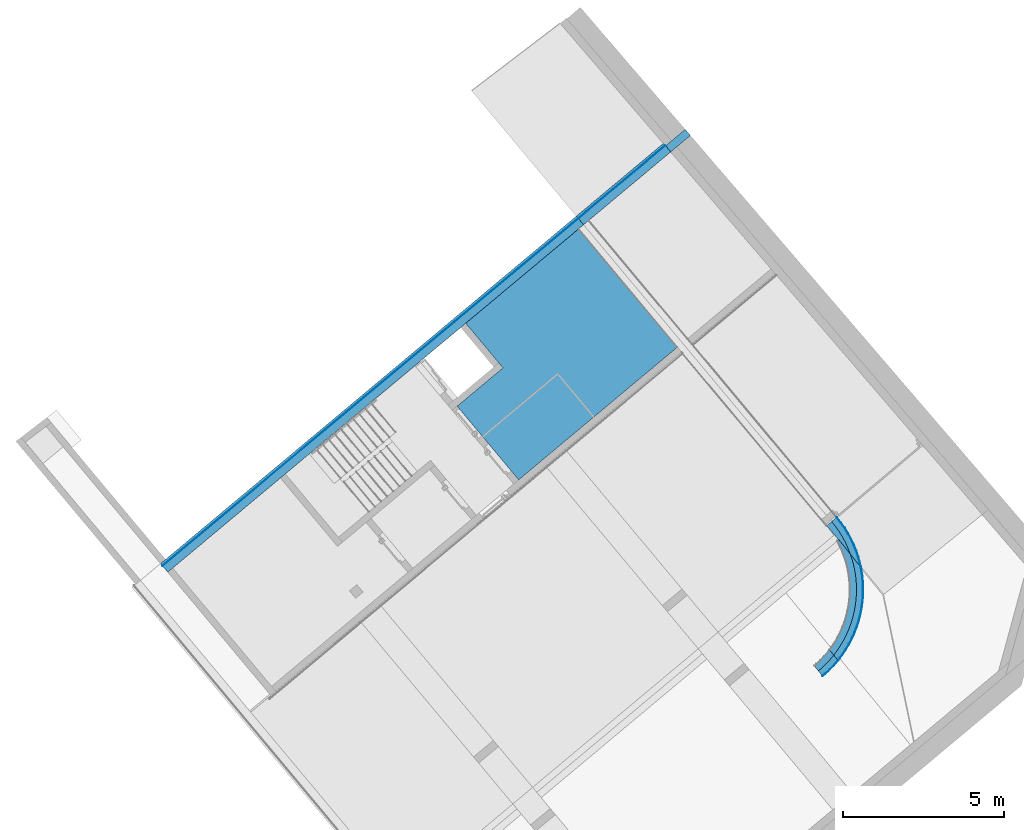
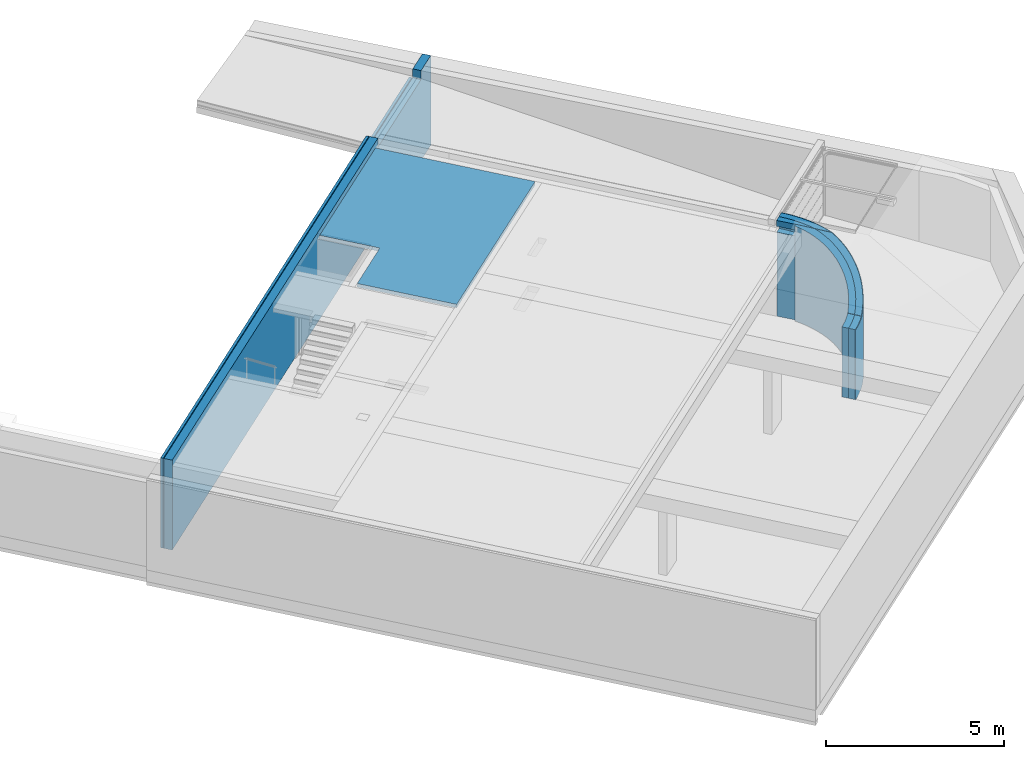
# One storey, part 11 of 14: 7 building element parts, 3 elements without a shape of their own.
"""IFC4 building model written with IfcOpenShell, lengths in metres."""

from ifc_helpers import new_model, entity, si_unit, converted_unit, derived_unit, direction, frame, origin_with_axes, place, context, subcontext, project, spatial, polygons, material, type_object, element, aggregate, save


model = new_model("IFC4")

# Units and contexts
model_context = context("Model", 3, precision=1e-05, world=origin_with_axes(), true_north=direction((0.0, 1.0)))
body_context = subcontext(model_context, "Body", "Model", "MODEL_VIEW")
ifc_project = project(units=[si_unit("LENGTHUNIT", "METRE"), si_unit("AREAUNIT", "SQUARE_METRE"), si_unit("VOLUMEUNIT", "CUBIC_METRE"), converted_unit("PLANEANGLEUNIT", "DEGREE", entity("IfcPlaneAngleMeasure", 0.0174532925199), si_unit("PLANEANGLEUNIT", "RADIAN"), dimensions=[0, 0, 0, 0, 0, 0, 0]), converted_unit("TIMEUNIT", "Year", entity("IfcTimeMeasure", 31556926.0), si_unit("TIMEUNIT", "SECOND"), dimensions=[0, 0, 1, 0, 0, 0, 0]), si_unit("MASSUNIT", "GRAM", prefix="KILO"), si_unit("THERMODYNAMICTEMPERATUREUNIT", "DEGREE_CELSIUS"), si_unit("LUMINOUSINTENSITYUNIT", "LUMEN"), si_unit("ENERGYUNIT", "JOULE", prefix="MEGA"), derived_unit("THERMALCONDUCTANCEUNIT", [(si_unit("POWERUNIT", "WATT"), 1), (si_unit("LENGTHUNIT", "METRE"), -1), (si_unit("THERMODYNAMICTEMPERATUREUNIT", "KELVIN"), -1)]), derived_unit("SPECIFICHEATCAPACITYUNIT", [(si_unit("ENERGYUNIT", "JOULE"), 1), (si_unit("MASSUNIT", "GRAM", prefix="KILO"), -1), (si_unit("THERMODYNAMICTEMPERATUREUNIT", "KELVIN"), -1)]), derived_unit("MASSDENSITYUNIT", [(si_unit("MASSUNIT", "GRAM", prefix="KILO"), 1), (si_unit("VOLUMEUNIT", "CUBIC_METRE"), -1)])], contexts=[model_context])

# Site, building, storey, space
site_placement = place(None, frame((-0.00153261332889, -0.00661245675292, 0.0), z_axis=(0.0, 0.0, 1.0), x_axis=(1.0, 0.0, 0.0)))
site = spatial("IfcSite", under=ifc_project, at=site_placement, Name="Gelände", CompositionType="ELEMENT")
building_placement = place(site_placement, origin_with_axes())
building = spatial("IfcBuilding", under=site, at=building_placement, Name="Gebäude", CompositionType="ELEMENT")
storey_placement = place(building_placement, frame((0.0, 0.0, -3.3), z_axis=(0.0, 0.0, 1.0), x_axis=(1.0, 0.0, 0.0)))
storey = spatial("IfcBuildingStorey", under=building, at=storey_placement, Name="UG1", CompositionType="ELEMENT", Elevation=-3.3)
space_1_placement = place(storey_placement, frame((1.94844643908, 34.4071819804, 0.0), z_axis=(0.0, 0.0, 1.0), x_axis=(0.6411378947, -0.767425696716, 0.0)))
space_1 = spatial("IfcSpace", under=storey, at=space_1_placement, CompositionType="ELEMENT", PredefinedType="NOTDEFINED")

# Wall, building element parts
wall_type_1 = type_object("IfcWallType", Name="AW KG 420", PredefinedType="NOTDEFINED")
wall_1_placement = place(space_1_placement, frame((20.4787029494, -3.28647441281, 0.0), z_axis=(0.0, 0.0, 1.0), x_axis=(0.00228131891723, 0.999997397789, 0.0)))
wall_1 = element("IfcWall", 1, at=wall_1_placement, inside=space_1, type_object=wall_type_1, Name="Wand-002", PredefinedType="NOTDEFINED")
ifc_material_1 = material(Name="Stahlbeton Wand")
building_element_part_1_placement = place(wall_1_placement, origin_with_axes())
building_element_part_1 = element("IfcBuildingElementPart", 2, at=building_element_part_1_placement, material=ifc_material_1, Name="Stahlbeton Wand", PredefinedType="NOTDEFINED", context=body_context, shape_type="Tessellation", body=[
    polygons([(2.65108964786, 1.14446129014, 3.12384897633), (2.54391486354, 1.00547455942, 3.08515618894), (2.53680556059, 0.996255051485, 3.08258953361), (2.53680556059, 0.996255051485, 0.0), (2.65108964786, 1.14446129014, 0.0), (2.75672643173, 1.29895016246, 3.16194691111), (2.85337134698, 1.45921775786, 3.19675908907), (2.94070915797, 1.62474131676, 3.22817196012), (3.01845498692, 1.7949809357, 3.25608306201), (3.07584472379, 1.94238527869, 3.27663704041), (3.08865828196, 2.51712510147, 3.27999999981), (2.41424694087, 0.854814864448, 3.03830285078), (3.02590831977, 2.5169352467, 3.25716165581), (2.99688411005, 2.37369512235, 3.24692227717), (2.9522115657, 2.20374313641, 3.23104795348), (2.89790952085, 2.03661862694, 3.21166242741), (2.83415509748, 1.87286671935, 3.18882893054), (2.76115624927, 1.71302153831, 3.16262194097), (2.67915108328, 1.55760446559, 3.13312694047), (2.58840708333, 1.40712243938, 3.10044013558), (2.48922023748, 1.26206630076, 3.06466814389), (2.38191407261, 1.12290919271, 3.02592764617), (2.26683859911, 0.990105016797, 2.9843450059), (2.14436916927, 0.864086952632, 2.940055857), (2.01490525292, 0.745266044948, 2.89320466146), (1.87886913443, 0.634029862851, 2.84394423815), (1.73670453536, 0.530741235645, 2.79243526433), (1.58887516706, 0.435737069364, 2.73884575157), (1.43586321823, 0.349327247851, 2.68335049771), (1.27816778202, 0.271793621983, 2.62613051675), (1.11630322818, 0.203389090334, 2.56737244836), (0.950797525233, 0.144336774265, 2.50726794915), (0.782190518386, 0.0948292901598, 2.44601306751), (0.777618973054, 0.0937662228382, 2.444351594), (0.775046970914, -0.112168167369, 2.44388187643), (0.833054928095, -0.098678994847, 2.46496417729), (1.01262613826, -0.0459521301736, 2.53020235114), (1.18889437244, 0.0169402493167, 2.5942153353), (1.36128468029, 0.0897930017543, 2.65679433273), (1.52923476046, 0.172368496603, 2.71773522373), (1.69219679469, 0.264397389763, 2.7768392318), (1.84963923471, 0.365579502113, 2.83391357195), (2.001048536, 0.475584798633, 2.88877207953), (2.14593083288, 0.59405446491, 2.94123581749), (2.28381354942, 0.720602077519, 2.99113366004), (2.41424694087, 0.854814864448, 0.0), (2.48922023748, 1.26206630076, 0.0), (2.38191407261, 1.12290919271, 0.0), (2.75672643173, 1.29895016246, 0.0), (2.85337134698, 1.45921775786, 0.0), (2.94070915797, 1.62474131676, 0.0), (3.01845498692, 1.7949809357, 0.0), (3.08635524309, 1.96938132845, 0.0), (3.08635524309, 1.96938132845, 3.27999999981), (3.08373470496, 1.96265053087, 3.27999999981), (3.07584472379, 1.94238527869, 3.27999999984), (3.08208043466, 2.22208208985, 3.27999999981), (3.08865828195, 2.51712510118, 0.0), (3.02590832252, 2.51693525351, 0.0), (2.99688411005, 2.37369512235, 0.0), (2.9522115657, 2.20374313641, 0.0), (2.89790952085, 2.03661862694, 0.0), (2.83415509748, 1.87286671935, 0.0), (2.76115624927, 1.71302153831, 0.0), (2.67915108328, 1.55760446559, 0.0), (2.58840708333, 1.40712243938, 0.0), (2.26683859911, 0.990105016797, 0.0), (2.14436916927, 0.864086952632, 0.0), (2.01490525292, 0.745266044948, 0.0), (1.87886913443, 0.634029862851, 0.0), (1.73670453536, 0.530741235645, 0.0), (1.58887516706, 0.435737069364, 0.0), (1.43586321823, 0.349327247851, 0.0), (1.27816778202, 0.271793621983, 0.0), (1.11630322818, 0.203389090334, 0.0), (0.950797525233, 0.144336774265, 0.0), (0.782190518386, 0.0948292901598, 0.0), (0.611032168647, 0.0550281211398, 0.0), (0.611032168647, 0.0550281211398, 2.4), (0.6821575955, 0.0715676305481, 2.4), (0.6821575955, 0.0715676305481, 2.40965734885), (0.679568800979, -0.134370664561, 2.40918153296), (0.679568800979, -0.134370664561, 2.4), (0.650766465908, -0.14106836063, 2.4), (0.650766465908, -0.14106836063, 0.0), (0.833054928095, -0.098678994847, 0.0), (1.01262613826, -0.0459521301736, 0.0), (1.18889437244, 0.0169402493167, 0.0), (1.36128468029, 0.0897930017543, 0.0), (1.52923476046, 0.172368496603, 0.0), (1.69219679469, 0.264397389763, 0.0), (1.84963923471, 0.365579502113, 0.0), (2.001048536, 0.475584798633, 0.0), (2.14593083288, 0.59405446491, 0.0), (2.28381354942, 0.720602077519, 0.0), (3.14418844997, 2.14737363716, 0.0), (3.14418844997, 2.14737363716, 3.27999999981), (3.19176596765, 2.32837728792, 3.27999999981), (3.22893260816, 2.51180188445, 3.27999999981), (3.25556714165, 2.69704913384, 3.27999999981), (3.27158269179, 2.88351479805, 3.27999999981), (3.27554574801, 3.08782711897, 3.27999999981), (3.07656667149, 3.08678005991, 3.27999999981), (3.0801952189, 2.51773175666, 3.27999999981), (3.08867237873, 2.51775739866, 3.27999999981), (3.08867237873, 2.51775739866, 0.0), (3.08867237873, 2.51775739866, 3.08), (3.08866525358, 2.51743780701, 3.08), (3.08866525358, 2.51743780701, 2.88), (3.08867237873, 2.51775739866, 2.88), (3.08019521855, 2.51773175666, 0.0), (3.08006875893, 2.53756378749, 0.0), (3.22893260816, 2.51180188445, 0.0), (3.19176596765, 2.32837728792, 0.0), (0.437880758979, 0.0250630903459, 0.0), (0.437880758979, 0.0250630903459, 2.4), (0.466355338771, -0.172981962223, 2.4), (0.263301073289, 0.00503193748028, 2.4), (0.0878625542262, -0.005, 2.4), (0.0, -0.005, 2.4), (0.0, -0.205, 2.4), (0.0935760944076, -0.205, 2.4), (0.280423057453, -0.19431570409, 2.4), (0.466355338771, -0.172981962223, 0.0), (3.22980394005, 2.51786213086, 3.08), (3.25556714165, 2.69704913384, 3.08), (3.25556714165, 2.69704913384, 0.0), (3.25556714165, 2.69704913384, 2.88), (3.22980394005, 2.51786213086, 2.88), (3.27158269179, 2.88351479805, 3.08), (3.27554618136, 3.08782711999, 3.08), (3.07656667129, 3.08678005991, 3.08), (3.08019521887, 2.51773175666, 3.08), (3.27536057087, 3.07830175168, 2.88), (3.07662371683, 3.07783387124, 2.88), (3.08019521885, 2.51773175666, 2.88), (3.27158269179, 2.88351479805, 2.88), (3.07662371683, 3.07783387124, 0.0), (3.07779213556, 2.89459614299, 0.0), (3.07892255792, 2.71731721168, 0.0), (0.263301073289, 0.00503193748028, 0.0), (0.0878625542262, -0.005, 0.0), (0.0, -0.005, 0.0), (0.0, -0.205, 0.0), (0.0935760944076, -0.205, 0.0), (0.280423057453, -0.19431570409, 0.0), (3.27158269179, 2.88351479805, 0.0), (3.27536057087, 3.07830175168, 0.0)], [[[1, 2, 3, 4, 5]], [[2, 1, 6, 7, 8, 9, 10, 11]], [[12, 3, 2, 11, 13, 14, 15, 16, 17, 18, 19, 20, 21, 22, 23, 24, 25, 26, 27, 28, 29, 30, 31, 32, 33, 34, 35, 36, 37, 38, 39, 40, 41, 42, 43, 44, 45]], [[3, 12, 46, 4]], [[47, 5, 4, 48]], [[6, 1, 5, 49]], [[7, 6, 49, 50]], [[8, 7, 50, 51]], [[9, 8, 51, 52]], [[10, 9, 52, 53, 54, 55, 56]], [[10, 56, 57, 11]], [[13, 11, 58, 59]], [[14, 13, 59, 60]], [[15, 14, 60, 61]], [[16, 15, 61, 62]], [[17, 16, 62, 63]], [[18, 17, 63, 64]], [[19, 18, 64, 65]], [[20, 19, 65, 66]], [[21, 20, 66, 47]], [[22, 21, 47, 48]], [[23, 22, 48, 67]], [[24, 23, 67, 68]], [[25, 24, 68, 69]], [[26, 25, 69, 70]], [[27, 26, 70, 71]], [[28, 27, 71, 72]], [[29, 28, 72, 73]], [[30, 29, 73, 74]], [[31, 30, 74, 75]], [[32, 31, 75, 76]], [[33, 32, 76, 77]], [[34, 33, 77, 78, 79, 80, 81]], [[35, 34, 81, 82]], [[36, 35, 82, 83, 84, 85, 86]], [[37, 36, 86, 87]], [[38, 37, 87, 88]], [[39, 38, 88, 89]], [[40, 39, 89, 90]], [[41, 40, 90, 91]], [[42, 41, 91, 92]], [[43, 42, 92, 93]], [[44, 43, 93, 94]], [[45, 44, 94, 95]], [[12, 45, 95, 46]], [[48, 4, 46, 67]], [[66, 49, 5, 47]], [[65, 50, 49, 66]], [[64, 51, 50, 65]], [[63, 52, 51, 64]], [[62, 53, 52, 63]], [[53, 96, 97, 54]], [[57, 55, 54, 97, 98, 99, 100, 101, 102, 103, 104, 105, 11]], [[56, 55, 57]], [[106, 58, 11, 105, 107, 108, 109, 110]], [[58, 106, 111, 112, 113, 114, 60, 59]], [[60, 114, 96, 61]], [[61, 96, 53, 62]], [[67, 46, 95, 68]], [[68, 95, 94, 69]], [[69, 94, 93, 70]], [[70, 93, 92, 71]], [[71, 92, 91, 72]], [[72, 91, 90, 73]], [[73, 90, 89, 74]], [[74, 89, 88, 75]], [[75, 88, 87, 76]], [[76, 87, 86, 77]], [[77, 86, 85, 78]], [[115, 116, 79, 78]], [[117, 84, 83, 80, 79, 116, 118, 119, 120, 121, 122, 123]], [[80, 83, 82, 81]], [[85, 84, 117, 124]], [[96, 114, 98, 97]], [[114, 113, 99, 98]], [[125, 126, 100, 99, 113, 127, 128, 129]], [[126, 130, 101, 100]], [[130, 131, 102, 101]], [[131, 132, 103, 102]], [[132, 133, 104, 103]], [[133, 107, 105, 104]], [[108, 107, 133, 132, 131, 130, 126, 125]], [[108, 125, 129, 109]], [[134, 135, 136, 110, 109, 129, 128, 137]], [[106, 110, 136, 111]], [[138, 139, 140, 112, 111, 136, 135]], [[127, 113, 112, 140]], [[78, 85, 124, 115]], [[141, 118, 116, 115]], [[142, 119, 118, 141]], [[143, 120, 119, 142]], [[144, 121, 120, 143]], [[145, 122, 121, 144]], [[146, 123, 122, 145]], [[124, 117, 123, 146]], [[147, 137, 128, 127]], [[138, 135, 134, 148]], [[148, 134, 137, 147]], [[147, 139, 138, 148]], [[147, 127, 140, 139]], [[115, 124, 146, 141]], [[141, 146, 145, 142]], [[142, 145, 144, 143]]], closed=True),
])
ifc_material_2 = material(Name="XPS KG")
building_element_part_2_placement = place(wall_1_placement, origin_with_axes())
building_element_part_2 = element("IfcBuildingElementPart", 3, at=building_element_part_2_placement, material=ifc_material_2, Name="XPS KG", PredefinedType="NOTDEFINED", context=body_context, shape_type="Tessellation", body=[
    polygons([(0.0, -0.205, 2.4), (0.0, -0.205, 0.0), (0.0, -0.405, 0.0), (0.0, -0.405, 2.4), (0.0935760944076, -0.205, 2.4), (0.0935760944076, -0.205, 0.0), (0.099289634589, -0.405, 0.0), (0.099289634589, -0.405, 2.4), (0.297545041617, -0.393663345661, 2.4), (0.494829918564, -0.371027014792, 2.4), (0.676990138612, -0.339502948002, 2.4), (0.679568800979, -0.134370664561, 2.4), (0.650766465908, -0.14106836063, 2.4), (0.466355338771, -0.172981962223, 2.4), (0.280423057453, -0.19431570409, 2.4), (0.280423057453, -0.19431570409, 0.0), (0.297545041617, -0.393663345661, 0.0), (0.494829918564, -0.371027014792, 0.0), (0.690500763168, -0.3371648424, 0.0), (0.690500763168, -0.3371648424, 2.41361966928), (0.676990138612, -0.339502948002, 2.40870757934), (0.679568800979, -0.134370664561, 2.40918153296), (0.650766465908, -0.14106836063, 0.0), (0.775046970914, -0.112168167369, 2.44388186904), (0.833054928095, -0.098678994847, 2.46496417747), (0.833054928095, -0.098678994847, 0.0), (0.466355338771, -0.172981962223, 0.0), (0.883919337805, -0.292187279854, 0.0), (0.883919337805, -0.292187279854, 2.48391528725), (0.772474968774, -0.318102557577, 2.4434121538), (1.07445475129, -0.236241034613, 2.55313675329), (1.2614855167, -0.1695085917, 2.62105822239), (1.44440157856, -0.0922076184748, 2.68745814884), (1.62260630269, -0.004590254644, 2.75211994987), (1.79551842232, 0.0930577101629, 2.81483271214), (1.96257393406, 0.200417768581, 2.87539187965), (2.12322793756, 0.317139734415, 2.93359992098), (2.27695641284, 0.442842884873, 2.98926697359), (2.37289294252, 0.530892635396, 3.02398507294), (2.54391486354, 1.00547455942, 3.08515618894), (2.53680556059, 0.996255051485, 3.08258953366), (2.41424694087, 0.854814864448, 3.03830285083), (2.28381354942, 0.720602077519, 2.99113366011), (2.14593083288, 0.59405446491, 2.94123581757), (2.001048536, 0.475584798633, 2.88877207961), (1.84963923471, 0.365579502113, 2.83391357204), (1.69219679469, 0.264397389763, 2.77683923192), (1.52923476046, 0.172368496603, 2.71773522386), (1.36128468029, 0.0897930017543, 2.65679433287), (1.18889437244, 0.0169402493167, 2.59421533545), (1.01262613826, -0.0459521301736, 2.53020235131), (1.01262613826, -0.0459521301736, 0.0), (1.07445475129, -0.236241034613, 0.0), (1.2614855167, -0.1695085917, 0.0), (1.44440157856, -0.0922076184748, 0.0), (1.62260630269, -0.004590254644, 0.0), (1.79551842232, 0.0930577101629, 0.0), (1.96257393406, 0.200417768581, 0.0), (2.12322793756, 0.317139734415, 0.0), (2.27695641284, 0.442842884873, 0.0), (2.42325792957, 0.577117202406, 0.0), (2.42325792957, 0.577117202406, 3.04221129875), (2.65108964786, 1.14446129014, 3.12384897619), (2.56165528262, 0.719524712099, 3.09226010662), (2.69169704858, 0.869600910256, 3.13925046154), (2.81295905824, 1.02685627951, 3.18302909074), (2.92504578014, 1.19077788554, 3.22345319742), (3.02759161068, 1.36083105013, 3.26039092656), (3.06443602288, 1.43065897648, 3.27364279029), (3.07584472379, 1.94238527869, 3.27663704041), (3.01845498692, 1.7949809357, 3.25608306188), (2.94070915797, 1.62474131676, 3.22817195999), (2.85337134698, 1.45921775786, 3.19675908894), (2.75672643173, 1.29895016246, 3.16194691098), (2.65108964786, 1.14446129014, 0.0), (2.53680556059, 0.996255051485, 0.0), (2.41424694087, 0.854814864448, 0.0), (2.28381354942, 0.720602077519, 0.0), (2.14593083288, 0.59405446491, 0.0), (2.001048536, 0.475584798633, 0.0), (1.84963923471, 0.365579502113, 0.0), (1.69219679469, 0.264397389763, 0.0), (1.52923476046, 0.172368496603, 0.0), (1.36128468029, 0.0897930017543, 0.0), (1.18889437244, 0.0169402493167, 0.0), (2.56165528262, 0.719524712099, 0.0), (2.69169704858, 0.869600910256, 0.0), (2.81295905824, 1.02685627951, 0.0), (2.92504578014, 1.19077788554, 0.0), (3.02759161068, 1.36083105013, 0.0), (3.12026206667, 1.5364610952, 0.0), (3.12026206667, 1.5364610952, 3.27999999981), (3.08211629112, 1.46416681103, 3.27999999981), (3.06443602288, 1.43065897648, 3.27999999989), (3.07584472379, 1.94238527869, 3.27999999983), (3.01845498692, 1.7949809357, 0.0), (3.08373470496, 1.96265053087, 3.27999999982), (3.08635524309, 1.96938132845, 3.27999999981), (3.08635524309, 1.96938132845, 0.0), (2.94070915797, 1.62474131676, 0.0), (2.85337134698, 1.45921775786, 0.0), (2.75672643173, 1.29895016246, 0.0), (3.20275487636, 1.71709515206, 0.0), (3.20275487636, 1.71709515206, 3.27999999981), (3.27554547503, 3.08782734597, 3.27999999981), (3.27158269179, 2.88351479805, 3.27999999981), (3.25556714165, 2.69704913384, 3.27999999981), (3.22893260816, 2.51180188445, 3.27999999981), (3.19176596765, 2.32837728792, 3.27999999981), (3.14418844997, 2.14737363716, 3.27999999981), (3.08448549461, 1.8449076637, 3.27999999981), (3.27480096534, 1.90214402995, 3.27999999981), (3.33616533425, 2.09100413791, 3.27999999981), (3.38664782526, 2.2830594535, 3.27999999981), (3.42608377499, 2.47768353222, 3.27999999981), (3.45434455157, 2.67424155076, 3.27999999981), (3.47133797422, 2.87209237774, 3.27999999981), (3.47554286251, 3.08887998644, 3.27999999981), (3.14418844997, 2.14737363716, 0.0), (3.27480096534, 1.90214402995, 0.0), (3.27536057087, 3.07830175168, 0.0), (3.27158269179, 2.88351479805, 0.0), (3.27554618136, 3.08782711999, 3.08), (3.27536057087, 3.07830175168, 3.08), (3.25556714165, 2.69704913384, 0.0), (3.22893260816, 2.51180188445, 0.0), (3.19176596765, 2.32837728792, 0.0), (3.33616533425, 2.09100413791, 0.0), (3.38664782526, 2.2830594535, 0.0), (3.42608377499, 2.47768353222, 0.0), (3.45434455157, 2.67424155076, 0.0), (3.47133797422, 2.87209237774, 0.0), (3.47534652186, 3.07877257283, 0.0), (3.47534652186, 3.07877257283, 3.08), (3.47554425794, 3.08887953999, 3.08), (3.27556860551, 3.07830224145, 0.0), (3.27556860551, 3.07830224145, 3.08)], [[[1, 2, 3, 4]], [[2, 1, 5, 6]], [[3, 2, 6, 7]], [[3, 7, 8, 4]], [[5, 1, 4, 8, 9, 10, 11, 12, 13, 14, 15]], [[6, 5, 15, 16]], [[17, 7, 6, 16]], [[7, 17, 9, 8]], [[9, 17, 18, 10]], [[18, 19, 20, 21, 11, 10]], [[12, 11, 21, 22]], [[23, 13, 12, 22, 24, 25, 26]], [[23, 27, 14, 13]], [[27, 16, 15, 14]], [[16, 27, 18, 17]], [[27, 23, 19, 18]], [[20, 19, 28, 29, 30]], [[22, 21, 20, 30, 24]], [[25, 24, 30, 29, 31, 32, 33, 34, 35, 36, 37, 38, 39, 40, 41, 42, 43, 44, 45, 46, 47, 48, 49, 50, 51]], [[26, 25, 51, 52]], [[19, 23, 26, 28]], [[28, 53, 31, 29]], [[31, 53, 54, 32]], [[54, 55, 33, 32]], [[55, 56, 34, 33]], [[56, 57, 35, 34]], [[35, 57, 58, 36]], [[58, 59, 37, 36]], [[59, 60, 38, 37]], [[60, 61, 62, 39, 38]], [[63, 40, 39, 62, 64, 65, 66, 67, 68, 69, 70, 71, 72, 73, 74]], [[75, 76, 41, 40, 63]], [[76, 77, 42, 41]], [[77, 78, 43, 42]], [[78, 79, 44, 43]], [[79, 80, 45, 44]], [[81, 46, 45, 80]], [[81, 82, 47, 46]], [[82, 83, 48, 47]], [[83, 84, 49, 48]], [[84, 85, 50, 49]], [[52, 51, 50, 85]], [[26, 52, 53, 28]], [[53, 52, 85, 54]], [[54, 85, 84, 55]], [[84, 83, 56, 55]], [[83, 82, 57, 56]], [[82, 81, 58, 57]], [[81, 80, 59, 58]], [[80, 79, 60, 59]], [[79, 78, 61, 60]], [[61, 86, 64, 62]], [[64, 86, 87, 65]], [[87, 88, 66, 65]], [[88, 89, 67, 66]], [[89, 90, 68, 67]], [[68, 90, 91, 92, 93, 94, 69]], [[95, 70, 69, 94]], [[96, 71, 70, 95, 97, 98, 99]], [[96, 100, 72, 71]], [[100, 101, 73, 72]], [[101, 102, 74, 73]], [[75, 63, 74, 102]], [[76, 75, 88, 87]], [[77, 76, 87, 86]], [[78, 77, 86, 61]], [[75, 102, 89, 88]], [[102, 101, 90, 89]], [[101, 100, 91, 90]], [[91, 103, 104, 92]], [[105, 106, 107, 108, 109, 110, 98, 97, 111, 93, 92, 104, 112, 113, 114, 115, 116, 117, 118]], [[97, 95, 94, 93, 111]], [[119, 99, 98, 110]], [[96, 99, 120, 103]], [[100, 96, 103, 91]], [[103, 120, 112, 104]], [[121, 122, 106, 105, 123, 124]], [[106, 122, 125, 107]], [[125, 126, 108, 107]], [[126, 127, 109, 108]], [[127, 119, 110, 109]], [[120, 128, 113, 112]], [[128, 129, 114, 113]], [[129, 130, 115, 114]], [[130, 131, 116, 115]], [[131, 132, 117, 116]], [[133, 134, 135, 118, 117, 132]], [[135, 123, 105, 118]], [[99, 119, 128, 120]], [[121, 136, 133, 132, 122]], [[137, 124, 123, 135, 134]], [[136, 121, 124, 137, 134, 133]], [[125, 122, 132, 131]], [[126, 125, 131, 130]], [[127, 126, 130, 129]], [[119, 127, 129, 128]]], closed=True),
])
ifc_material_3 = material(Name="Kalkzementputz KG")
building_element_part_3_placement = place(wall_1_placement, origin_with_axes())
building_element_part_3 = element("IfcBuildingElementPart", 4, at=building_element_part_3_placement, material=ifc_material_3, Name="Kalkzementputz KG", PredefinedType="NOTDEFINED", context=body_context, shape_type="Tessellation", body=[
    polygons([(2.82509926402, 1.01803590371, 3.18746759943), (2.70331391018, 0.860101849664, 3.14350002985), (2.70331391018, 0.860101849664, 0.0), (2.82509926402, 1.01803590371, 0.0), (2.57271090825, 0.709377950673, 3.09630687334), (2.93766973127, 1.18266496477, 3.228066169), (3.04065813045, 1.35345204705, 3.26516331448), (3.0636877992, 1.39709812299, 3.27344641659), (3.06443602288, 1.43065897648, 3.27364279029), (3.02759161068, 1.36083105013, 3.26039092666), (2.92504578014, 1.19077788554, 3.22345319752), (2.81295905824, 1.02685627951, 3.18302909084), (2.69169704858, 0.869600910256, 3.13925046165), (2.56165528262, 0.719524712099, 3.09226010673), (2.42325792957, 0.577117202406, 3.04221129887), (2.37289294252, 0.530892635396, 3.02398507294), (2.3619301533, 0.500471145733, 3.02006390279), (2.43371625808, 0.566355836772, 3.04604206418), (2.57271090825, 0.709377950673, 0.0), (2.81295905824, 1.02685627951, 0.0), (2.69169704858, 0.869600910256, 0.0), (2.93766973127, 1.18266496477, 0.0), (3.04065813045, 1.35345204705, 0.0), (3.13372853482, 1.52984007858, 0.0), (3.13372853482, 1.52984007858, 3.27999999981), (3.08190876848, 1.4316404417, 3.27999999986), (3.0636877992, 1.39709812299, 3.27999999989), (3.06443602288, 1.43065897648, 3.27999999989), (3.08211101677, 1.4641668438, 3.27999999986), (3.12026206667, 1.5364610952, 3.27999999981), (3.12026206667, 1.5364610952, 0.0), (3.02759161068, 1.36083105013, 0.0), (2.92504578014, 1.19077788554, 0.0), (2.56165528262, 0.719524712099, 0.0), (2.42325792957, 0.577117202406, 0.0), (2.27695641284, 0.442842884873, 0.0), (2.27695641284, 0.442842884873, 2.98926697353), (2.28678333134, 0.43150201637, 2.99286931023), (2.12322793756, 0.317139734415, 2.9335999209), (1.96257393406, 0.200417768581, 2.87539187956), (1.79551842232, 0.0930577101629, 2.81483271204), (1.62260630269, -0.004590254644, 2.75211994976), (1.44440157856, -0.0922076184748, 2.68745814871), (1.2614855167, -0.1695085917, 2.62105822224), (1.07445475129, -0.236241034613, 2.55313675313), (0.883919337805, -0.292187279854, 2.48391528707), (0.772474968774, -0.318102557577, 2.44341215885), (0.772282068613, -0.333547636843, 2.44337693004), (0.887734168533, -0.306700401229, 2.48533662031), (1.07909189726, -0.250512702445, 2.55485683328), (1.26692985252, -0.183492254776, 2.62307143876), (1.45063534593, -0.105857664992, 2.6897579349), (1.62960916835, -0.0178621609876, 2.75469880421), (1.80326754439, 0.0802072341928, 2.81768222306), (1.97104403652, 0.188030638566, 2.87850275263), (2.13239139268, 0.305256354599, 2.936962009), (2.28678333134, 0.43150201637, 0.0), (2.43371625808, 0.566355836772, 0.0), (3.21657736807, 1.71125371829, 0.0), (3.21657736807, 1.71125371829, 3.27999999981), (3.28893439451, 1.89710123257, 3.27999999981), (3.35056360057, 2.08677642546, 3.27999999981), (3.40126396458, 2.27966061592, 3.27999999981), (3.44087011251, 2.4751246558, 3.27999999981), (3.46925285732, 2.67253098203, 3.27999999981), (3.4863196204, 2.87123569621, 3.27999999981), (3.49054233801, 3.08895846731, 3.27999999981), (3.47554340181, 3.08887953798, 3.27999999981), (3.47133797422, 2.87209237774, 3.27999999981), (3.45434455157, 2.67424155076, 3.27999999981), (3.42608377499, 2.47768353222, 3.27999999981), (3.38664782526, 2.2830594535, 3.27999999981), (3.33616533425, 2.09100413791, 3.27999999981), (3.27480096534, 1.90214402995, 3.27999999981), (3.20275487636, 1.71709515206, 3.27999999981), (3.20275487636, 1.71709515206, 0.0), (2.12322793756, 0.317139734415, 0.0), (1.96257393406, 0.200417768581, 0.0), (1.79551842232, 0.0930577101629, 0.0), (1.62260630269, -0.004590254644, 0.0), (1.44440157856, -0.0922076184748, 0.0), (1.2614855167, -0.1695085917, 0.0), (1.07445475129, -0.236241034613, 0.0), (0.883919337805, -0.292187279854, 0.0), (0.690500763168, -0.3371648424, 0.0), (0.690500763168, -0.3371648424, 2.41361980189), (0.676990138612, -0.339502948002, 2.40870757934), (0.676798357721, -0.354759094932, 2.40867233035), (0.693480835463, -0.351872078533, 2.41473774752), (0.693480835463, -0.351872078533, 0.0), (0.887734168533, -0.306700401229, 0.0), (1.07909189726, -0.250512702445, 0.0), (1.26692985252, -0.183492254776, 0.0), (1.45063534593, -0.105857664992, 0.0), (1.62960916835, -0.0178621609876, 0.0), (1.80326754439, 0.0802072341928, 0.0), (1.97104403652, 0.188030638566, 0.0), (2.13239139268, 0.305256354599, 0.0), (3.28893439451, 1.89710123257, 0.0), (3.35056360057, 2.08677642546, 0.0), (3.40126396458, 2.27966061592, 0.0), (3.44087011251, 2.4751246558, 0.0), (3.46925285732, 2.67253098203, 0.0), (3.4863196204, 2.87123569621, 0.0), (3.49034546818, 3.07880788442, 3.08), (3.49054233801, 3.08895846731, 3.08), (3.49034546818, 3.07880788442, 0.0), (3.47554425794, 3.08887953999, 3.08), (3.47534652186, 3.07877257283, 0.0), (3.47133797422, 2.87209237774, 0.0), (3.47534652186, 3.07877257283, 3.08), (3.45434455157, 2.67424155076, 0.0), (3.42608377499, 2.47768353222, 0.0), (3.38664782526, 2.2830594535, 0.0), (3.33616533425, 2.09100413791, 0.0), (3.27480096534, 1.90214402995, 0.0), (0.676990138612, -0.339502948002, 2.4), (0.494829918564, -0.371027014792, 0.0), (0.494829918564, -0.371027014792, 2.4), (0.676798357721, -0.354759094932, 2.4), (0.496965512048, -0.385880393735, 2.4), (0.496965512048, -0.385880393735, 0.0), (0.297545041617, -0.393663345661, 0.0), (0.297545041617, -0.393663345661, 2.4), (0.298829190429, -0.408614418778, 2.4), (0.099289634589, -0.405, 2.4), (0.0, -0.405, 2.4), (0.0, -0.42, 2.4), (0.0997181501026, -0.42, 2.4), (0.298829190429, -0.408614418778, 0.0), (0.099289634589, -0.405, 0.0), (0.0, -0.405, 0.0), (0.0, -0.42, 0.0), (0.0997181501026, -0.42, 0.0)], [[[1, 2, 3, 4]], [[5, 2, 1, 6, 7, 8, 9, 10, 11, 12, 13, 14, 15, 16, 17, 18]], [[2, 5, 19, 3]], [[20, 4, 3, 21]], [[6, 1, 4, 22]], [[7, 6, 22, 23]], [[8, 7, 23, 24, 25, 26, 27]], [[8, 27, 28, 9]], [[28, 29, 30, 31, 32, 10, 9]], [[11, 10, 32, 33]], [[12, 11, 33, 20]], [[13, 12, 20, 21]], [[14, 13, 21, 34]], [[15, 14, 34, 35]], [[16, 15, 35, 36, 37]], [[38, 17, 16, 37, 39, 40, 41, 42, 43, 44, 45, 46, 47, 48, 49, 50, 51, 52, 53, 54, 55, 56]], [[17, 38, 57, 58, 18]], [[5, 18, 58, 19]], [[21, 3, 19, 34]], [[33, 22, 4, 20]], [[32, 23, 22, 33]], [[31, 24, 23, 32]], [[24, 59, 60, 25]], [[29, 26, 25, 60, 61, 62, 63, 64, 65, 66, 67, 68, 69, 70, 71, 72, 73, 74, 75, 30]], [[27, 26, 29, 28]], [[76, 31, 30, 75]], [[34, 19, 58, 35]], [[35, 58, 57, 36]], [[39, 37, 36, 77]], [[40, 39, 77, 78]], [[41, 40, 78, 79]], [[42, 41, 79, 80]], [[43, 42, 80, 81]], [[44, 43, 81, 82]], [[45, 44, 82, 83]], [[46, 45, 83, 84]], [[47, 46, 84, 85, 86]], [[48, 47, 86, 87, 88, 89]], [[49, 48, 89, 90, 91]], [[50, 49, 91, 92]], [[51, 50, 92, 93]], [[52, 51, 93, 94]], [[53, 52, 94, 95]], [[54, 53, 95, 96]], [[55, 54, 96, 97]], [[56, 55, 97, 98]], [[38, 56, 98, 57]], [[76, 59, 24, 31]], [[59, 99, 61, 60]], [[99, 100, 62, 61]], [[100, 101, 63, 62]], [[101, 102, 64, 63]], [[102, 103, 65, 64]], [[103, 104, 66, 65]], [[105, 106, 67, 66, 104, 107]], [[106, 108, 68, 67]], [[109, 110, 69, 68, 108, 111]], [[110, 112, 70, 69]], [[112, 113, 71, 70]], [[113, 114, 72, 71]], [[114, 115, 73, 72]], [[115, 116, 74, 73]], [[116, 76, 75, 74]], [[36, 57, 98, 77]], [[77, 98, 97, 78]], [[78, 97, 96, 79]], [[79, 96, 95, 80]], [[80, 95, 94, 81]], [[81, 94, 93, 82]], [[82, 93, 92, 83]], [[83, 92, 91, 84]], [[84, 91, 90, 85]], [[117, 87, 86, 85, 118, 119]], [[117, 120, 88, 87]], [[88, 120, 121, 122, 90, 89]], [[116, 99, 59, 76]], [[115, 100, 99, 116]], [[114, 101, 100, 115]], [[113, 102, 101, 114]], [[112, 103, 102, 113]], [[110, 104, 103, 112]], [[108, 106, 105, 111]], [[109, 107, 104, 110]], [[111, 105, 107, 109]], [[85, 90, 122, 118]], [[123, 124, 119, 118]], [[125, 121, 120, 117, 119, 124, 126, 127, 128, 129]], [[122, 121, 125, 130]], [[118, 122, 130, 123]], [[131, 126, 124, 123]], [[132, 127, 126, 131]], [[133, 128, 127, 132]], [[134, 129, 128, 133]], [[130, 125, 129, 134]], [[123, 130, 134, 131]], [[131, 134, 133, 132]]], closed=True),
])
aggregate(wall_1, [building_element_part_1, building_element_part_2, building_element_part_3])

# Space
space_2_placement = place(storey_placement, frame((-1.16790631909, 24.7563892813, 0.0), z_axis=(0.0, 0.0, 1.0), x_axis=(0.641170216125, -0.767398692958, 0.0)))
space_2 = spatial("IfcSpace", under=storey, at=space_2_placement, Name="Beschichtung", CompositionType="ELEMENT", PredefinedType="NOTDEFINED")

# Wall, building element parts
wall_type_2 = type_object("IfcWallType", Name="Keller-AW 350", PredefinedType="NOTDEFINED")
wall_2_placement = place(space_2_placement, frame((-0.35007199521, 12.3343635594, 0.0), z_axis=(0.0, 0.0, 1.0), x_axis=(5.06265902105e-05, -0.999999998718, 0.0)))
wall_2 = element("IfcWall", 5, at=wall_2_placement, inside=space_2, type_object=wall_type_2, Name="Wand-002", PredefinedType="NOTDEFINED")
ifc_material_4 = material(Name="Stahlbeton Decke Garage")
building_element_part_4_placement = place(wall_2_placement, origin_with_axes())
building_element_part_4 = element("IfcBuildingElementPart", 6, at=building_element_part_4_placement, material=ifc_material_4, Name="Stahlbeton Decke Garage", PredefinedType="NOTDEFINED", context=body_context, shape_type="Tessellation", body=[
    polygons([(0.240018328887, 0.1, 3.08), (0.240004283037, 0.35, 3.08), (-0.554879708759, 0.35, 3.08), (-0.551431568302, 0.1, 3.08), (0.240004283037, 0.35, 2.77313259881), (0.240018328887, 0.1, 2.78563117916), (3.75995630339, 0.35, 2.77051147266), (3.75995630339, 0.35, 3.08), (20.5549542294, 0.35, 3.08), (20.5549542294, 0.35, 0.0), (-0.554879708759, 0.35, 0.0), (-0.551431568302, 0.1, 0.0), (20.5549543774, 0.1, 0.0), (20.5549543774, 0.1, 3.08), (3.75997034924, 0.1, 3.08), (3.75997034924, 0.1, 2.78301005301)], [[[1, 2, 3, 4]], [[5, 2, 1, 6]], [[7, 8, 9, 10, 11, 3, 2, 5]], [[3, 11, 12, 4]], [[6, 1, 4, 12, 13, 14, 15, 16]], [[7, 5, 6, 16]], [[15, 8, 7, 16]], [[8, 15, 14, 9]], [[14, 13, 10, 9]], [[11, 10, 13, 12]]], closed=True),
])
ifc_material_5 = material(Name="Sperrschicht")
building_element_part_5_placement = place(wall_2_placement, origin_with_axes())
building_element_part_5 = element("IfcBuildingElementPart", 7, at=building_element_part_5_placement, material=ifc_material_5, Name="Sperrschicht", PredefinedType="NOTDEFINED", context=body_context, shape_type="Tessellation", body=[
    polygons([(0.248920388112, 0.08, 2.78662443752), (0.248644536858, 0.1, 2.78562475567), (0.248644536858, 0.1, 0.0), (0.248920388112, 0.08, 0.0), (3.75997034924, 0.1, 2.78301005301), (3.75997147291, 0.08, 2.78400993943), (3.75997034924, 0.1, 3.08), (20.5549543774, 0.1, 3.08), (20.5549543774, 0.1, 0.0), (20.5549543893, 0.08, 0.0), (20.5549543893, 0.08, 3.08), (3.75997147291, 0.08, 3.08)], [[[1, 2, 3, 4]], [[5, 2, 1, 6]], [[5, 7, 8, 9, 3, 2]], [[3, 9, 10, 4]], [[6, 1, 4, 10, 11, 12]], [[12, 7, 5, 6]], [[7, 12, 11, 8]], [[8, 11, 10, 9]]], closed=True),
])
building_element_part_6_placement = place(wall_2_placement, origin_with_axes())
building_element_part_6 = element("IfcBuildingElementPart", 8, at=building_element_part_6_placement, material=ifc_material_2, Name="XPS KG", PredefinedType="NOTDEFINED", context=body_context, shape_type="Tessellation", body=[
    polygons([(0.250023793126, 0.0, 2.79062316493), (0.248920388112, 0.08, 2.78662443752), (0.248920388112, 0.08, 0.0), (0.250023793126, 0.0, 0.0), (3.75997147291, 0.08, 2.78400993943), (3.75997596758, 0.0, 2.78800948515), (3.75997147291, 0.08, 3.08), (20.5549543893, 0.08, 3.08), (20.5549543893, 0.08, 0.0), (20.5549544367, 0.0, 0.0), (20.5549544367, 0.0, 3.08), (3.75997596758, 0.0, 3.08)], [[[1, 2, 3, 4]], [[5, 2, 1, 6]], [[5, 7, 8, 9, 3, 2]], [[3, 9, 10, 4]], [[6, 1, 4, 10, 11, 12]], [[12, 7, 5, 6]], [[7, 12, 11, 8]], [[8, 11, 10, 9]]], closed=True),
])
aggregate(wall_2, [building_element_part_4, building_element_part_5, building_element_part_6])

# Covering, building element part
covering_type = type_object("IfcCoveringType", Name="Vorsatzschale Garage 130", PredefinedType="NOTDEFINED")
covering_placement = place(storey_placement, frame((1.75678601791, 27.1995340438, 2.88), z_axis=(0.0, 0.0, 1.0), x_axis=(1.0, 0.0, 0.0)))
covering = element("IfcCovering", 9, at=covering_placement, inside=storey, type_object=covering_type, Name="Decke-005", PredefinedType="NOTDEFINED")
ifc_material_6 = material(Name="Holzwolledämmplatte")
building_element_part_7_placement = place(covering_placement, origin_with_axes())
building_element_part_7 = element("IfcBuildingElementPart", 10, at=building_element_part_7_placement, material=ifc_material_6, Name="Holzwolledämmplatte", PredefinedType="NOTDEFINED", context=body_context, shape_type="Tessellation", body=[
    polygons([(3.4979731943, 2.922896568, -0.12), (3.4979731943, 2.922896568, 0.0), (6.5608470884, -0.74297122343, 0.0), (6.5608470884, -0.74297122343, -0.12), (0.0, 0.0, 0.0), (0.0, 0.0, -0.12), (1.15425419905, -1.38117227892, 0.0), (-0.26596196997, -2.56790292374, 0.0), (1.64293460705, -4.85237001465, 0.0), (1.64293460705, -4.85237001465, -0.12), (-0.26596196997, -2.56790292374, -0.12), (1.15425419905, -1.38117227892, -0.12)], [[[1, 2, 3, 4]], [[5, 2, 1, 6]], [[2, 5, 7, 8, 9, 3]], [[3, 9, 10, 4]], [[6, 1, 4, 10, 11, 12]], [[5, 6, 12, 7]], [[8, 7, 12, 11]], [[9, 8, 11, 10]]], closed=True),
])
aggregate(covering, [building_element_part_7])

save(model, "model.ifc")
